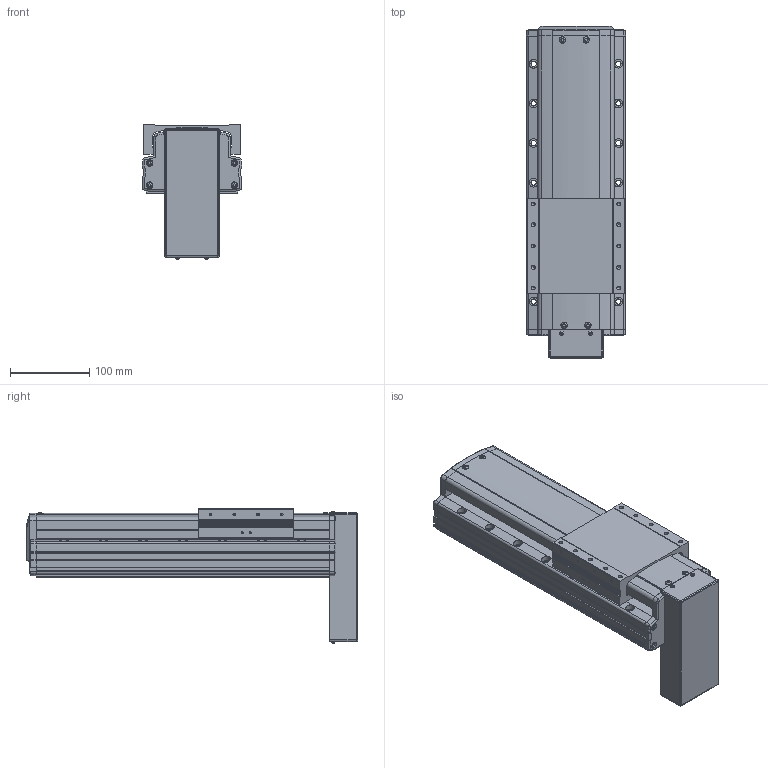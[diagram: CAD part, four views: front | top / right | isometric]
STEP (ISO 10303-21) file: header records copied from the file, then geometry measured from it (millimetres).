
FILE_DESCRIPTION(('STEP AP214'),'1');
FILE_NAME('Z:/Web/3D/PSA125/STP/PSA125-150 (3D)/PSA125ㅁㅁ-150PB.stp','2014-06-20T08:57:45',(' '),(' '),'Spatial InterOp 3D',' ',' ');
FILE_SCHEMA(('automotive_design'));
Length unit declared in the file: millimetre
Products named in the file (29): 스크루 : Round - M4.0 x 10.0; RRCV-PA120; SLIDE; BASE; FRCV-PA120-1(기준 뿔 제거); RR1500; 스크루 : Round - M4.0 x 6.0; 너트 : Square - M10.0 x 220.7419; 1; 2; 파트105; 스크루 : Round - M3.0 x 6.0
Bounding box: 125 x 418.6 x 169.06 mm (x, y, z)
Volume: 3740345.1 mm3; surface area: 381039.9 mm2
Topology: 29 solids, 29 shells, 2058 faces, 5471 edges, 3486 vertices
Faces by surface type: plane 1132, cylinder 584, cone 226, sphere 52, torus 33, bspline 31
Entity records: 82256 total; most frequent: CARTESIAN_POINT 13687, DIRECTION 10928, ORIENTED_EDGE 10706, EDGE_CURVE 5353, AXIS2_PLACEMENT_3D 3679, LINE 3570, VECTOR 3570, VERTEX_POINT 3486
